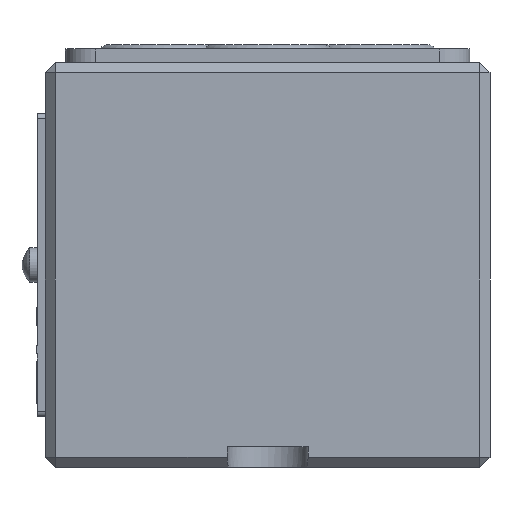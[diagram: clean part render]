
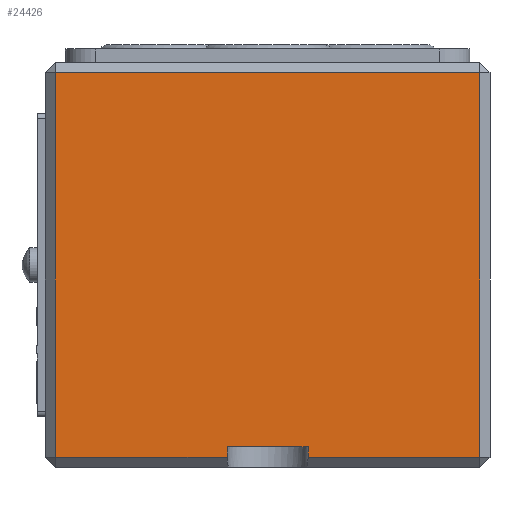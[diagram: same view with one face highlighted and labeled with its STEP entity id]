
A CAD part, left-side view. The second image highlights one B-rep face of the part: STEP entity #24426.
In plain terms, the highlighted planar face has unit normal (-1, 0, 0).
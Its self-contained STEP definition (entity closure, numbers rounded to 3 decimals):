
#1360=LINE('',#33666,#4027);
#1361=LINE('',#33669,#4028);
#1362=LINE('',#33671,#4029);
#1363=LINE('',#33673,#4030);
#1364=LINE('',#33675,#4031);
#1365=LINE('',#33677,#4032);
#1366=LINE('',#33679,#4033);
#1367=LINE('',#33681,#4034);
#4027=VECTOR('',#28803,1.);
#4028=VECTOR('',#28804,1.);
#4029=VECTOR('',#28805,1.);
#4030=VECTOR('',#28806,1.);
#4031=VECTOR('',#28807,1.);
#4032=VECTOR('',#28808,1.);
#4033=VECTOR('',#28809,1.);
#4034=VECTOR('',#28810,1.);
#6760=PLANE('',#27652);
#7674=FACE_OUTER_BOUND('',#8699,.T.);
#8699=EDGE_LOOP('',(#9899,#9900,#9901,#9902,#9903,#9904,#9905,#9906));
#9899=ORIENTED_EDGE('',*,*,#15681,.F.);
#9900=ORIENTED_EDGE('',*,*,#15682,.T.);
#9901=ORIENTED_EDGE('',*,*,#15683,.T.);
#9902=ORIENTED_EDGE('',*,*,#15684,.T.);
#9903=ORIENTED_EDGE('',*,*,#15685,.T.);
#9904=ORIENTED_EDGE('',*,*,#15686,.T.);
#9905=ORIENTED_EDGE('',*,*,#15687,.F.);
#9906=ORIENTED_EDGE('',*,*,#15688,.F.);
#15681=EDGE_CURVE('',#25683,#25684,#1360,.T.);
#15682=EDGE_CURVE('',#25683,#25685,#1361,.T.);
#15683=EDGE_CURVE('',#25685,#25686,#1362,.T.);
#15684=EDGE_CURVE('',#25686,#25687,#1363,.T.);
#15685=EDGE_CURVE('',#25687,#25688,#1364,.T.);
#15686=EDGE_CURVE('',#25688,#25689,#1365,.T.);
#15687=EDGE_CURVE('',#25690,#25689,#1366,.T.);
#15688=EDGE_CURVE('',#25684,#25690,#1367,.T.);
#24426=ADVANCED_FACE('',(#7674),#6760,.T.);
#25683=VERTEX_POINT('',#33667);
#25684=VERTEX_POINT('',#33668);
#25685=VERTEX_POINT('',#33670);
#25686=VERTEX_POINT('',#33672);
#25687=VERTEX_POINT('',#33674);
#25688=VERTEX_POINT('',#33676);
#25689=VERTEX_POINT('',#33678);
#25690=VERTEX_POINT('',#33680);
#27652=AXIS2_PLACEMENT_3D('',#33682,#28811,#28812);
#28803=DIRECTION('',(0.,0.,1.));
#28804=DIRECTION('',(0.,-1.,0.));
#28805=DIRECTION('',(0.,0.,1.));
#28806=DIRECTION('',(0.,1.,0.));
#28807=DIRECTION('',(0.,0.,-1.));
#28808=DIRECTION('',(0.,-1.,0.));
#28809=DIRECTION('',(0.,0.,-1.));
#28810=DIRECTION('',(0.,1.,0.));
#28811=DIRECTION('',(-1.,0.,0.));
#28812=DIRECTION('',(0.,0.,1.));
#33666=CARTESIAN_POINT('',(30.953,6.811,158.372));
#33667=CARTESIAN_POINT('',(30.953,6.811,159.372));
#33668=CARTESIAN_POINT('',(30.953,6.811,160.372));
#33669=CARTESIAN_POINT('',(30.953,-11.189,159.372));
#33670=CARTESIAN_POINT('',(30.953,-10.189,159.372));
#33671=CARTESIAN_POINT('',(30.953,-10.189,198.372));
#33672=CARTESIAN_POINT('',(30.953,-10.189,197.372));
#33673=CARTESIAN_POINT('',(30.953,32.811,197.372));
#33674=CARTESIAN_POINT('',(30.953,31.811,197.372));
#33675=CARTESIAN_POINT('',(30.953,31.811,198.372));
#33676=CARTESIAN_POINT('',(30.953,31.811,159.372));
#33677=CARTESIAN_POINT('',(30.953,-11.189,159.372));
#33678=CARTESIAN_POINT('',(30.953,14.811,159.372));
#33679=CARTESIAN_POINT('',(30.953,14.811,158.372));
#33680=CARTESIAN_POINT('',(30.953,14.811,160.372));
#33681=CARTESIAN_POINT('',(30.953,-11.189,160.372));
#33682=CARTESIAN_POINT('',(30.953,-11.189,198.372));
